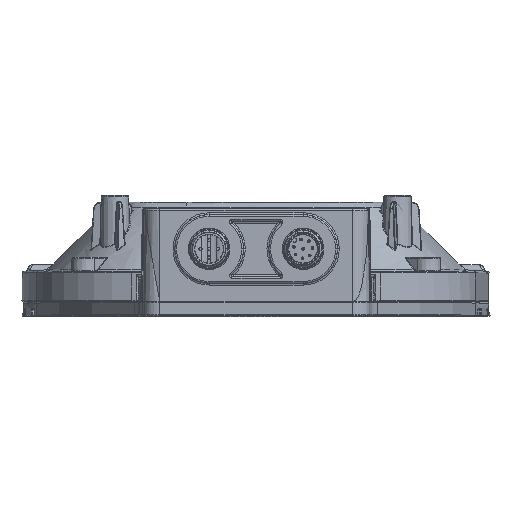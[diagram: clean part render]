
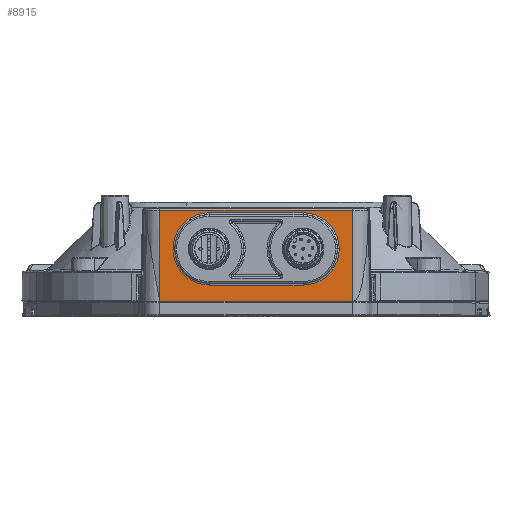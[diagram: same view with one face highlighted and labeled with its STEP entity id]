
A CAD part, top view. The second image highlights one B-rep face of the part: STEP entity #8915.
In plain terms, the highlighted planar face has unit normal (0, 0, 1).
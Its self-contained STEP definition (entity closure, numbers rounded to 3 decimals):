
#1303 = DIRECTION ( 'NONE',  ( 0., 0., 1. ) ) ;
#2168 = VERTEX_POINT ( 'NONE', #84196 ) ;
#2341 = VERTEX_POINT ( 'NONE', #38407 ) ;
#3067 = EDGE_CURVE ( 'NONE', #103077, #2168, #34903, .T. ) ;
#3123 = ORIENTED_EDGE ( 'NONE', *, *, #125652, .T. ) ;
#3493 = AXIS2_PLACEMENT_3D ( 'NONE', #117818, #58762, #127667 ) ;
#3645 = EDGE_CURVE ( 'NONE', #35904, #81057, #37898, .T. ) ;
#4502 = ORIENTED_EDGE ( 'NONE', *, *, #8767, .T. ) ;
#4634 = CARTESIAN_POINT ( 'NONE',  ( 67.563, 131.461, 241.365 ) ) ;
#4799 = CARTESIAN_POINT ( 'NONE',  ( 25.913, 142.641, 241.365 ) ) ;
#4967 = DIRECTION ( 'NONE',  ( 1., 0., 0. ) ) ;
#8238 = EDGE_CURVE ( 'NONE', #2168, #56601, #97598, .T. ) ;
#8685 = CARTESIAN_POINT ( 'NONE',  ( 40.263, 131.461, 241.365 ) ) ;
#8767 = EDGE_CURVE ( 'NONE', #113700, #32551, #112986, .T. ) ;
#8915 = ADVANCED_FACE ( 'NONE', ( #28013, #106792 ), #60633, .T. ) ;
#10216 = VECTOR ( 'NONE', #97926, 1000. ) ;
#14530 = CARTESIAN_POINT ( 'NONE',  ( 81.913, 116.111, 241.365 ) ) ;
#14588 = DIRECTION ( 'NONE',  ( 1., 0., 0. ) ) ;
#18659 = DIRECTION ( 'NONE',  ( 1., 0., 0. ) ) ;
#21777 = AXIS2_PLACEMENT_3D ( 'NONE', #99883, #1303, #70543 ) ;
#22642 = EDGE_CURVE ( 'NONE', #77711, #56601, #95794, .T. ) ;
#28013 = FACE_BOUND ( 'NONE', #112384, .T. ) ;
#32305 = CARTESIAN_POINT ( 'NONE',  ( 25.913, 116.111, 241.365 ) ) ;
#32385 = CARTESIAN_POINT ( 'NONE',  ( 25.913, 116.111, 241.365 ) ) ;
#32551 = VERTEX_POINT ( 'NONE', #117215 ) ;
#34903 = LINE ( 'NONE', #100436, #107506 ) ;
#35137 = CARTESIAN_POINT ( 'NONE',  ( 67.563, 120.97, 241.365 ) ) ;
#35904 = VERTEX_POINT ( 'NONE', #73951 ) ;
#37898 = CIRCLE ( 'NONE', #88406, 10.491 ) ;
#38407 = CARTESIAN_POINT ( 'NONE',  ( 67.563, 141.953, 241.365 ) ) ;
#43559 = EDGE_CURVE ( 'NONE', #2341, #35904, #63891, .T. ) ;
#44412 = VECTOR ( 'NONE', #4967, 1000. ) ;
#46393 = ORIENTED_EDGE ( 'NONE', *, *, #49721, .T. ) ;
#47016 = DIRECTION ( 'NONE',  ( -1., 0., 0. ) ) ;
#48753 = CARTESIAN_POINT ( 'NONE',  ( 40.263, 120.97, 241.365 ) ) ;
#49376 = ORIENTED_EDGE ( 'NONE', *, *, #3067, .T. ) ;
#49721 = EDGE_CURVE ( 'NONE', #81057, #113700, #115361, .T. ) ;
#56601 = VERTEX_POINT ( 'NONE', #4799 ) ;
#58762 = DIRECTION ( 'NONE',  ( 0., 0., -1. ) ) ;
#60633 = PLANE ( 'NONE',  #21777 ) ;
#63891 = CIRCLE ( 'NONE', #3493, 10.491 ) ;
#64966 = ORIENTED_EDGE ( 'NONE', *, *, #3645, .T. ) ;
#70543 = DIRECTION ( 'NONE',  ( 1., 0., 0. ) ) ;
#70644 = AXIS2_PLACEMENT_3D ( 'NONE', #8685, #77902, #18659 ) ;
#73788 = LINE ( 'NONE', #123296, #44412 ) ;
#73883 = DIRECTION ( 'NONE',  ( 0., 0., -1. ) ) ;
#73951 = CARTESIAN_POINT ( 'NONE',  ( 78.054, 131.461, 241.365 ) ) ;
#75872 = ORIENTED_EDGE ( 'NONE', *, *, #43559, .T. ) ;
#77563 = VECTOR ( 'NONE', #47016, 1000. ) ;
#77711 = VERTEX_POINT ( 'NONE', #32385 ) ;
#77902 = DIRECTION ( 'NONE',  ( 0., 0., -1. ) ) ;
#79388 = CARTESIAN_POINT ( 'NONE',  ( 40.263, 120.97, 241.365 ) ) ;
#81057 = VERTEX_POINT ( 'NONE', #35137 ) ;
#83813 = EDGE_CURVE ( 'NONE', #77711, #103077, #73788, .T. ) ;
#84196 = CARTESIAN_POINT ( 'NONE',  ( 81.913, 142.641, 241.365 ) ) ;
#84773 = ORIENTED_EDGE ( 'NONE', *, *, #83813, .T. ) ;
#87872 = ORIENTED_EDGE ( 'NONE', *, *, #22642, .F. ) ;
#88406 = AXIS2_PLACEMENT_3D ( 'NONE', #4634, #73883, #14588 ) ;
#90472 = DIRECTION ( 'NONE',  ( 0., 1., 0. ) ) ;
#91416 = DIRECTION ( 'NONE',  ( 0., 1., 0. ) ) ;
#95393 = CARTESIAN_POINT ( 'NONE',  ( 67.563, 141.953, 241.365 ) ) ;
#95794 = LINE ( 'NONE', #32305, #122050 ) ;
#97598 = LINE ( 'NONE', #106137, #77563 ) ;
#97926 = DIRECTION ( 'NONE',  ( -1., 0., 0. ) ) ;
#99883 = CARTESIAN_POINT ( 'NONE',  ( 25.913, 116.111, 241.365 ) ) ;
#100436 = CARTESIAN_POINT ( 'NONE',  ( 81.913, 116.111, 241.365 ) ) ;
#103077 = VERTEX_POINT ( 'NONE', #14530 ) ;
#105834 = VECTOR ( 'NONE', #114401, 1000. ) ;
#106137 = CARTESIAN_POINT ( 'NONE',  ( 25.913, 142.641, 241.365 ) ) ;
#106455 = ORIENTED_EDGE ( 'NONE', *, *, #8238, .T. ) ;
#106792 = FACE_OUTER_BOUND ( 'NONE', #111546, .T. ) ;
#107506 = VECTOR ( 'NONE', #90472, 1000. ) ;
#111546 = EDGE_LOOP ( 'NONE', ( #49376, #106455, #87872, #84773 ) ) ;
#112384 = EDGE_LOOP ( 'NONE', ( #3123, #75872, #64966, #46393, #4502 ) ) ;
#112986 = CIRCLE ( 'NONE', #70644, 10.491 ) ;
#113700 = VERTEX_POINT ( 'NONE', #79388 ) ;
#114401 = DIRECTION ( 'NONE',  ( 1., 0., 0. ) ) ;
#115060 = LINE ( 'NONE', #95393, #105834 ) ;
#115361 = LINE ( 'NONE', #48753, #10216 ) ;
#117215 = CARTESIAN_POINT ( 'NONE',  ( 40.263, 141.953, 241.365 ) ) ;
#117818 = CARTESIAN_POINT ( 'NONE',  ( 67.563, 131.461, 241.365 ) ) ;
#122050 = VECTOR ( 'NONE', #91416, 1000. ) ;
#123296 = CARTESIAN_POINT ( 'NONE',  ( 53.913, 116.111, 241.365 ) ) ;
#125652 = EDGE_CURVE ( 'NONE', #32551, #2341, #115060, .T. ) ;
#127667 = DIRECTION ( 'NONE',  ( 1., 0., 0. ) ) ;
